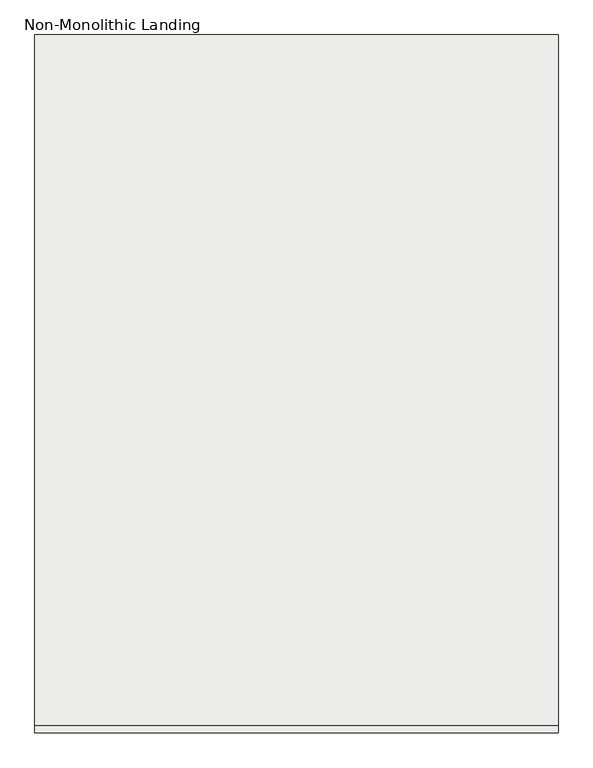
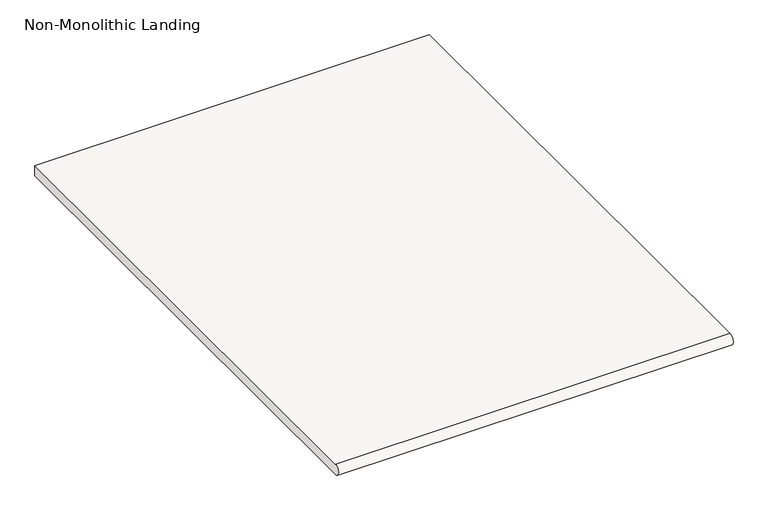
"""IFC4 building model written with IfcOpenShell, lengths in millimetres: slab geometry, Non-Monolithic Landing."""

from ifc_helpers import new_model, si_unit, point, frame, frame_2d, origin, place, context, project, spatial, polyline, circle_curve, trimmed, segment, composite_curve, outline, extrude, source, transform, mapped, element, save


def non_monolithic_landing_577eea64(model_context):
    return source(origin(), model_context, "Body", "SweptSolid", [
        extrude(outline(composite_curve([segment(polyline([(-1677.6289462, -152.4), (-471.1289462, -152.4), (-471.1289462, -177.8), (-1677.6289462, -177.8)]), True, "CONTINUOUS"), segment(trimmed(circle_curve(frame_2d((-1677.6289462, -165.1)), 12.7), [point((-1677.6289462, -177.8))], [point((-1677.6289462, -152.4))], False, "CARTESIAN"), True, "CONTINUOUS")], self_intersect=False)), frame((-11123.1379486, 0.0, 0.0), z_axis=(1.0, 0.0, 0.0), x_axis=(0.0, 1.0, 0.0)), (0.0, 0.0, 1.0), 914.4),
    ])


if __name__ == "__main__":
    model = new_model("IFC4")
    model_context = context("Model", 3, world=origin())
    ifc_project = project(units=[si_unit("LENGTHUNIT", "METRE", prefix="MILLI")], contexts=[model_context])
    site = spatial("IfcSite", under=ifc_project)
    building = spatial("IfcBuilding", under=site)
    placement = place(None, origin())
    non_monolithic_landing_shape = non_monolithic_landing_577eea64(model_context)
    element("IfcSlab", 1, ObjectType="Non-Monolithic Landing", at=placement, inside=building, context=model_context, shape_type="MappedRepresentation", body=[
        mapped(non_monolithic_landing_shape, transform((0.0, 0.0, 0.0), x_axis=(1.0, 0.0, 0.0), y_axis=(0.0, 1.0, 0.0), z_axis=(0.0, 0.0, 1.0))),
    ])
    save(model, "model.ifc")
